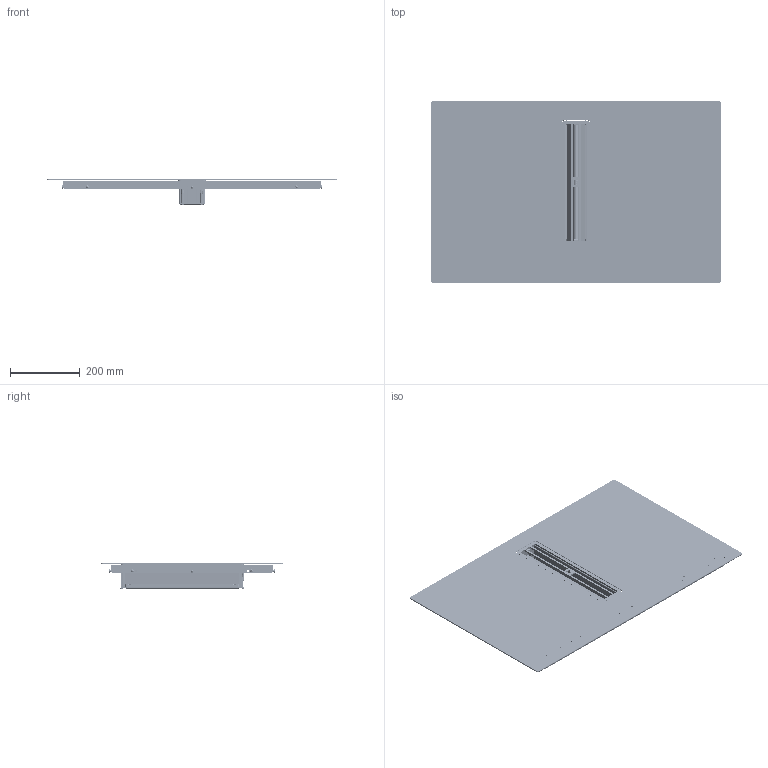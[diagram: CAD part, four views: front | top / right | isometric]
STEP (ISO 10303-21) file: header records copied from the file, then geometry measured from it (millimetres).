
FILE_DESCRIPTION(/* description */ (''),/* implementation_level */ '2;1');
FILE_NAME(/* name */ '3D001_Hob extractor_2gether_Steel',/* time_stamp */ '2024-03-22T11:40:14+01:00',/* author */ (''),/* organization */ (''),/* preprocessor_version */ 'ST-DEVELOPER v19.2',/* originating_system */ 'Rhino 8.4',/* authorisation */ '');
FILE_SCHEMA (('CONFIG_CONTROL_DESIGN'));
Products named in the file (13): Document; Blocco 04; Blocco 03; 340006_286; 340006_002; 340006_244; 340006_1020_ASM; 340006_299; 340006_298; 340006_300; SCR_036; 340006_301; SCR_057
Bounding box: 829.97 x 519.97 x 75.56 mm (x, y, z)
Volume: 2012075.2 mm3; surface area: 1336773.9 mm2
Topology: 447 solids, 27860 shells, 33650 faces, 124543 edges, 119217 vertices
Faces by surface type: plane 31403, cylinder 1641, bspline 606
Entity records: 1170324 total; most frequent: CARTESIAN_POINT 433340, ORIENTED_EDGE 129604, EDGE_CURVE 119616, B_SPLINE_CURVE_WITH_KNOTS 118415, VERTEX_POINT 116015, DIRECTION 33963, AXIS2_PLACEMENT_3D 32709, EDGE_LOOP 31999
